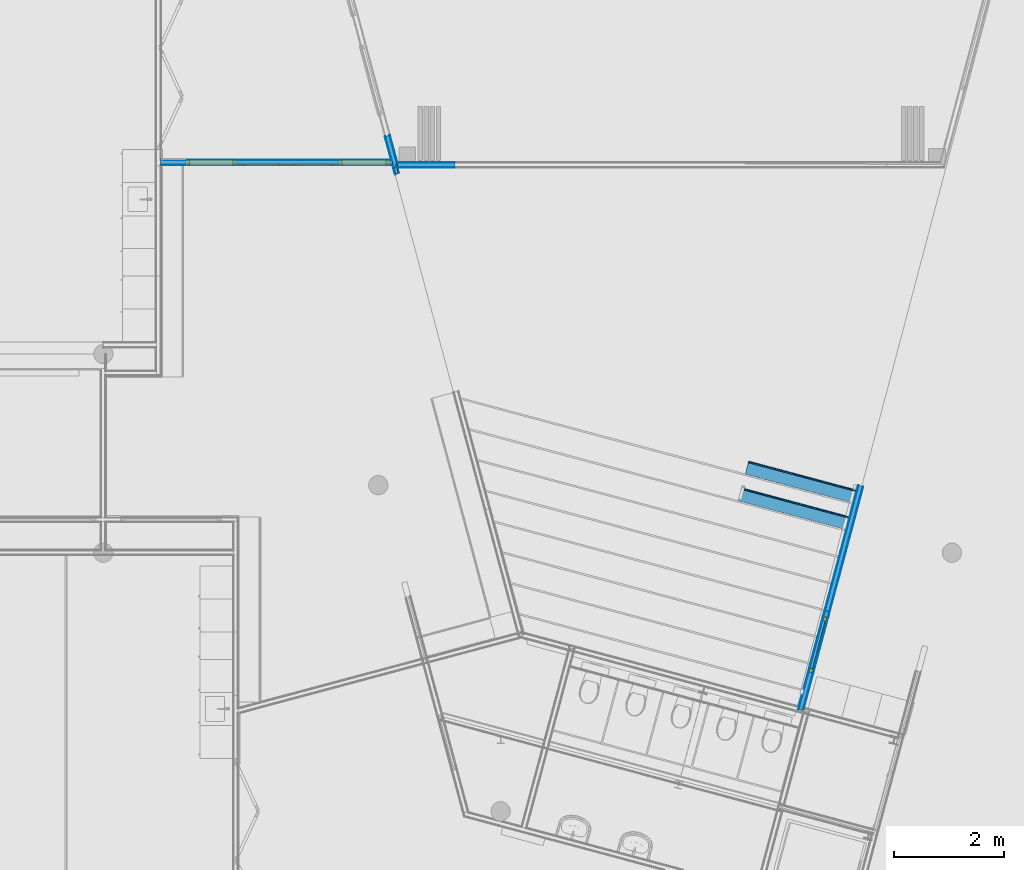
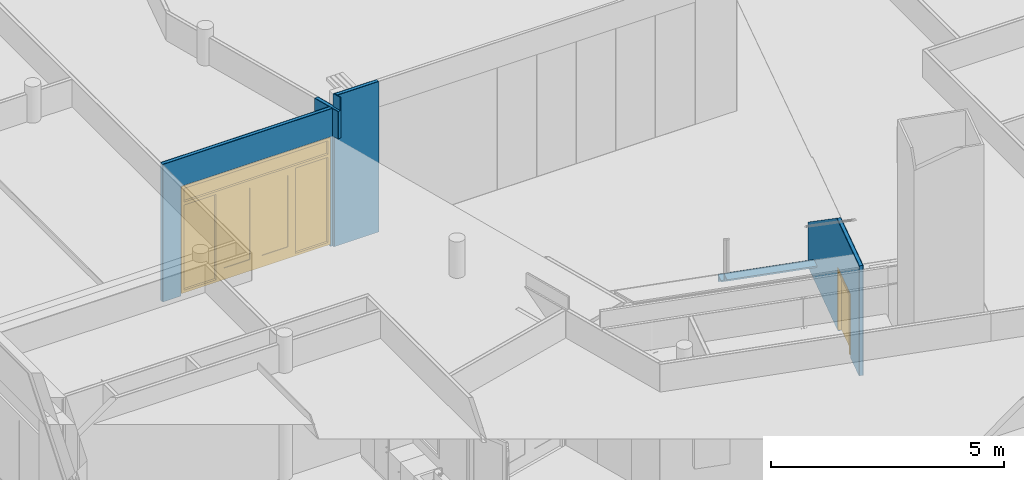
# One storey, part 60 of 167: 16 building element parts, 2 doors, 3 openings, 6 elements without a shape of their own.
"""IFC2X3 building model written with IfcOpenShell, lengths in millimetres."""

from ifc_helpers import new_model, entity, si_unit, converted_unit, derived_unit, money_unit, direction, frame, origin_with_axes, place, context, subcontext, project, spatial, open_shell, faceted_brep, surface_model, material, type_object, element, fill, aggregate, save


model = new_model("IFC2X3")

# Units and contexts
model_context = context("Model", 3, precision=0.01, world=origin_with_axes(), true_north=direction((0.0, 1.0)))
plan_context = context("Plan", 3, precision=0.01, world=origin_with_axes(), true_north=direction((0.0, 1.0)))
body_context = subcontext(model_context, "Body", "Model", "MODEL_VIEW")
ifc_project = project(units=[si_unit("LENGTHUNIT", "METRE", prefix="MILLI"), si_unit("AREAUNIT", "SQUARE_METRE"), si_unit("VOLUMEUNIT", "CUBIC_METRE"), converted_unit("PLANEANGLEUNIT", "DEGREE", entity("IfcPlaneAngleMeasure", 0.0174532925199), si_unit("PLANEANGLEUNIT", "RADIAN"), dimensions=[0, 0, 0, 0, 0, 0, 0]), si_unit("SOLIDANGLEUNIT", "STERADIAN"), money_unit("EUR"), converted_unit("TIMEUNIT", "Year", entity("IfcTimeMeasure", 31556926.0), si_unit("TIMEUNIT", "SECOND"), dimensions=[0, 0, 1, 0, 0, 0, 0]), si_unit("MASSUNIT", "GRAM", prefix="KILO"), si_unit("THERMODYNAMICTEMPERATUREUNIT", "DEGREE_CELSIUS"), si_unit("LUMINOUSINTENSITYUNIT", "LUMEN"), si_unit("ENERGYUNIT", "JOULE", prefix="MEGA"), derived_unit("THERMALCONDUCTANCEUNIT", [(si_unit("POWERUNIT", "WATT"), 1), (si_unit("LENGTHUNIT", "METRE"), -1), (si_unit("THERMODYNAMICTEMPERATUREUNIT", "KELVIN"), -1)]), derived_unit("SPECIFICHEATCAPACITYUNIT", [(si_unit("ENERGYUNIT", "JOULE"), 1), (si_unit("MASSUNIT", "GRAM", prefix="KILO"), -1), (si_unit("THERMODYNAMICTEMPERATUREUNIT", "KELVIN"), -1)]), derived_unit("MASSDENSITYUNIT", [(si_unit("MASSUNIT", "GRAM", prefix="KILO"), 1), (si_unit("VOLUMEUNIT", "CUBIC_METRE"), -1)])], contexts=[model_context, plan_context])

# Site, building, storey
site_placement = place(None, origin_with_axes())
site = spatial("IfcSite", under=ifc_project, at=site_placement, Name="Site", CompositionType="ELEMENT")
building_placement = place(site_placement, origin_with_axes())
building = spatial("IfcBuilding", under=site, at=building_placement, Name="Naam gebouw", CompositionType="ELEMENT")
storey_placement = place(building_placement, origin_with_axes())
storey = spatial("IfcBuildingStorey", under=building, at=storey_placement, Name="Begane grond", CompositionType="ELEMENT", Elevation=0.0)

# Door
door_style_1 = type_object("IfcDoorStyle", Name="D2 bl zl2 24", ConstructionType="NOTDEFINED", OperationType="USERDEFINED", ParameterTakesPrecedence=False, Sizeable=False)
wall_2_placement = place(storey_placement, frame((8200.0, 25071.5457572, -100.0), z_axis=(0.0, 0.0, 1.0), x_axis=(1.0, 0.0, 0.0)))
opening_3_placement = place(wall_2_placement, frame((2341.90114495, 0.0, 100.0), z_axis=(0.0, 0.0, 1.0), x_axis=(1.0, 0.0, 0.0)))
door_1_placement = place(opening_3_placement, frame((1850.0, 0.0, 0.0), z_axis=(0.0, 0.0, 1.0), x_axis=(-1.0, 0.0, 0.0)))
door_1 = element("IfcDoor", 1, at=door_1_placement, inside=storey, type_object=door_style_1, Name="32_Deur_Hi-23", ObjectType="DOOR", OverallHeight=2800.0, OverallWidth=3700.0, context=body_context, shape_type="SurfaceModel", body=[
    faceted_brep([(0.0, 64.0, 0.0), (67.0, 64.0, 0.0), (67.0, -50.0, 0.0), (0.0, -50.0, 0.0), (0.0, 64.0, 2733.0), (67.0, 64.0, 2733.0), (67.0, 64.0, 2375.0), (67.0, 64.0, 2300.0), (67.0, 64.0, 67.0), (67.0, -50.0, 67.0), (67.0, -50.0, 2300.0), (67.0, -50.0, 2375.0), (67.0, -50.0, 2733.0), (0.0, -50.0, 2733.0)], [[[0, 1, 2, 3]], [[0, 4, 5, 6, 7, 8, 1]], [[1, 8, 9, 2]], [[3, 2, 9, 10, 11, 12, 13]], [[4, 0, 3, 13]], [[5, 4, 13, 12]], [[6, 5, 12, 11]], [[7, 6, 11, 10]], [[8, 7, 10, 9]]]),
    faceted_brep([(934.5, 24.0, 0.0), (934.5, 24.0, 2300.0), (934.5, -50.0, 2300.0), (934.5, -50.0, 0.0), (909.5, 24.0, 2300.0), (909.5, 24.0, 0.0), (909.5, 64.0, 2300.0), (867.5, 64.0, 2300.0), (867.5, -50.0, 2300.0), (867.5, -50.0, 0.0), (867.5, -50.0, 67.0), (867.5, 64.0, 0.0), (909.5, 64.0, 0.0), (867.5, 64.0, 67.0)], [[[0, 1, 2, 3]], [[4, 1, 0, 5]], [[4, 6, 7, 8, 2, 1]], [[9, 3, 2, 8, 10]], [[5, 0, 3, 9, 11, 12]], [[6, 4, 5, 12]], [[6, 12, 11, 13, 7]], [[13, 10, 8, 7]], [[11, 9, 10, 13]]]),
    faceted_brep([(67.0, 64.0, 67.0), (67.0, 64.0, 0.0), (67.0, -50.0, 0.0), (67.0, -50.0, 67.0), (867.5, 64.0, 67.0), (867.5, 64.0, 0.0), (867.5, -50.0, 0.0), (867.5, -50.0, 67.0)], [[[0, 1, 2, 3]], [[0, 4, 5, 1]], [[1, 5, 6, 2]], [[3, 2, 6, 7]], [[4, 0, 3, 7]], [[5, 4, 7, 6]]]),
    faceted_brep([(3700.0, 64.0, 0.0), (3700.0, 64.0, 2733.0), (3700.0, -50.0, 2733.0), (3700.0, -50.0, 0.0), (3633.0, 64.0, 0.0), (3633.0, 64.0, 67.0), (3633.0, 64.0, 2300.0), (3633.0, 64.0, 2375.0), (3633.0, 64.0, 2733.0), (3633.0, -50.0, 2733.0), (3633.0, -50.0, 2375.0), (3633.0, -50.0, 2300.0), (3633.0, -50.0, 67.0), (3633.0, -50.0, 0.0)], [[[0, 1, 2, 3]], [[0, 4, 5, 6, 7, 8, 1]], [[1, 8, 9, 2]], [[3, 2, 9, 10, 11, 12, 13]], [[4, 0, 3, 13]], [[5, 4, 13, 12]], [[6, 5, 12, 11]], [[7, 6, 11, 10]], [[8, 7, 10, 9]]]),
    faceted_brep([(2790.5, 24.0, 2300.0), (2765.5, 24.0, 2300.0), (2765.5, -50.0, 2300.0), (2840.5, -50.0, 2300.0), (2840.5, 64.0, 2300.0), (2790.5, 64.0, 2300.0), (2790.5, 24.0, 0.0), (2765.5, 24.0, 0.0), (2765.5, -50.0, 0.0), (2840.5, -50.0, 0.0), (2840.5, -50.0, 67.0), (2840.5, 64.0, 67.0), (2790.5, 64.0, 0.0), (2840.5, 64.0, 0.0)], [[[0, 1, 2, 3, 4, 5]], [[1, 0, 6, 7]], [[1, 7, 8, 2]], [[8, 9, 10, 3, 2]], [[4, 3, 10, 11]], [[12, 5, 4, 11, 13]], [[0, 5, 12, 6]], [[6, 12, 13, 9, 8, 7]], [[11, 10, 9, 13]]]),
    faceted_brep([(2840.5, 64.0, 67.0), (2840.5, 64.0, 0.0), (2840.5, -50.0, 0.0), (2840.5, -50.0, 67.0), (3633.0, 64.0, 67.0), (3633.0, 64.0, 0.0), (3633.0, -50.0, 0.0), (3633.0, -50.0, 67.0)], [[[0, 1, 2, 3]], [[0, 4, 5, 1]], [[1, 5, 6, 2]], [[3, 2, 6, 7]], [[4, 0, 3, 7]], [[5, 4, 7, 6]]]),
    faceted_brep([(0.0, 64.0, 2800.0), (0.0, 64.0, 2733.0), (0.0, -50.0, 2733.0), (0.0, -50.0, 2800.0), (3700.0, 64.0, 2800.0), (3700.0, 64.0, 2733.0), (3633.0, 64.0, 2733.0), (67.0, 64.0, 2733.0), (67.0, -50.0, 2733.0), (3633.0, -50.0, 2733.0), (3700.0, -50.0, 2733.0), (3700.0, -50.0, 2800.0)], [[[0, 1, 2, 3]], [[0, 4, 5, 6, 7, 1]], [[1, 7, 8, 2]], [[3, 2, 8, 9, 10, 11]], [[4, 0, 3, 11]], [[5, 4, 11, 10]], [[6, 5, 10, 9]], [[7, 6, 9, 8]]]),
    faceted_brep([(909.5, 64.0, 2325.0), (909.5, 64.0, 2300.0), (867.5, 64.0, 2300.0), (67.0, 64.0, 2300.0), (67.0, 64.0, 2375.0), (3633.0, 64.0, 2375.0), (3633.0, 64.0, 2300.0), (2840.5, 64.0, 2300.0), (2790.5, 64.0, 2300.0), (2790.5, 64.0, 2325.0), (909.5, 24.0, 2325.0), (909.5, 24.0, 2300.0), (934.5, 24.0, 2300.0), (934.5, -50.0, 2300.0), (867.5, -50.0, 2300.0), (67.0, -50.0, 2300.0), (67.0, -50.0, 2375.0), (3633.0, -50.0, 2375.0), (3633.0, -50.0, 2300.0), (2840.5, -50.0, 2300.0), (2790.5, 24.0, 2300.0), (2765.5, -50.0, 2300.0), (2765.5, 24.0, 2300.0), (2790.5, 24.0, 2325.0)], [[[0, 1, 2, 3, 4, 5, 6, 7, 8, 9]], [[1, 0, 10, 11]], [[11, 12, 13, 14, 2, 1]], [[2, 14, 15, 3]], [[3, 15, 16, 4]], [[4, 16, 17, 5]], [[5, 17, 18, 6]], [[6, 18, 19, 7]], [[20, 8, 7, 19, 21, 22]], [[9, 8, 20, 23]], [[0, 9, 23, 10]], [[20, 22, 12, 11, 10, 23]], [[12, 22, 21, 13]], [[18, 17, 16, 15, 14, 13, 21, 19]]]),
    faceted_brep([(2790.5, 64.0, 300.0), (2790.5, 24.0, 300.0), (2640.5, 24.0, 300.0), (2640.5, 64.0, 300.0), (2790.5, 64.0, 2175.0), (2790.5, 24.0, 2175.0), (2640.5, 24.0, 2175.0), (2640.5, 64.0, 2175.0)], [[[0, 1, 2, 3]], [[4, 5, 1, 0]], [[1, 5, 6, 2]], [[3, 2, 6, 7]], [[0, 3, 7, 4]], [[7, 6, 5, 4]]]),
    faceted_brep([(1850.0, 64.0, 300.0), (1850.0, 24.0, 300.0), (1850.0, 24.0, 2175.0), (1850.0, 64.0, 2175.0), (2000.0, 64.0, 300.0), (2000.0, 24.0, 300.0), (2000.0, 24.0, 2175.0), (2000.0, 64.0, 2175.0)], [[[0, 1, 2, 3]], [[4, 5, 1, 0]], [[1, 5, 6, 2]], [[3, 2, 6, 7]], [[0, 3, 7, 4]], [[7, 6, 5, 4]]]),
    faceted_brep([(2790.5, 64.0, 0.0), (2790.5, 24.0, 0.0), (1850.0, 24.0, 0.0), (1850.0, 64.0, 0.0), (2790.5, 64.0, 300.0), (2790.5, 24.0, 300.0), (2640.5, 24.0, 300.0), (2000.0, 24.0, 300.0), (1850.0, 24.0, 300.0), (1850.0, 64.0, 300.0), (2000.0, 64.0, 300.0), (2640.5, 64.0, 300.0)], [[[0, 1, 2, 3]], [[4, 5, 1, 0]], [[1, 5, 6, 7, 8, 2]], [[3, 2, 8, 9]], [[0, 3, 9, 10, 11, 4]], [[11, 6, 5, 4]], [[10, 7, 6, 11]], [[9, 8, 7, 10]]]),
    faceted_brep([(2790.5, 64.0, 2325.0), (2790.5, 24.0, 2325.0), (2790.5, 24.0, 2175.0), (2790.5, 64.0, 2175.0), (1850.0, 64.0, 2325.0), (1850.0, 24.0, 2325.0), (1850.0, 24.0, 2175.0), (2000.0, 24.0, 2175.0), (2640.5, 24.0, 2175.0), (2640.5, 64.0, 2175.0), (2000.0, 64.0, 2175.0), (1850.0, 64.0, 2175.0)], [[[0, 1, 2, 3]], [[4, 5, 1, 0]], [[1, 5, 6, 7, 8, 2]], [[3, 2, 8, 9]], [[0, 3, 9, 10, 11, 4]], [[11, 6, 5, 4]], [[10, 7, 6, 11]], [[9, 8, 7, 10]]]),
    surface_model("IfcShellBasedSurfaceModel", [(2640.5, 50.0, 300.0), (2000.0, 50.0, 300.0), (2000.0, 50.0, 2175.0), (2640.5, 50.0, 2175.0)], [open_shell([[[0, 1, 2, 3]]])]),
    surface_model("IfcShellBasedSurfaceModel", [(2640.5, 38.0, 300.0), (2640.5, 38.0, 2175.0), (2000.0, 38.0, 2175.0), (2000.0, 38.0, 300.0)], [open_shell([[[0, 1, 2, 3]]])]),
    faceted_brep([(909.5, 64.0, 300.0), (1059.5, 64.0, 300.0), (1059.5, 24.0, 300.0), (909.5, 24.0, 300.0), (909.5, 64.0, 2175.0), (1059.5, 64.0, 2175.0), (1059.5, 24.0, 2175.0), (909.5, 24.0, 2175.0)], [[[0, 1, 2, 3]], [[0, 4, 5, 1]], [[1, 5, 6, 2]], [[3, 2, 6, 7]], [[4, 0, 3, 7]], [[5, 4, 7, 6]]]),
    faceted_brep([(1850.0, 64.0, 300.0), (1850.0, 64.0, 2175.0), (1850.0, 24.0, 2175.0), (1850.0, 24.0, 300.0), (1700.0, 64.0, 300.0), (1700.0, 64.0, 2175.0), (1700.0, 24.0, 2175.0), (1700.0, 24.0, 300.0)], [[[0, 1, 2, 3]], [[0, 4, 5, 1]], [[1, 5, 6, 2]], [[3, 2, 6, 7]], [[4, 0, 3, 7]], [[5, 4, 7, 6]]]),
    faceted_brep([(909.5, 64.0, 0.0), (1850.0, 64.0, 0.0), (1850.0, 24.0, 0.0), (909.5, 24.0, 0.0), (909.5, 64.0, 300.0), (1059.5, 64.0, 300.0), (1700.0, 64.0, 300.0), (1850.0, 64.0, 300.0), (1850.0, 24.0, 300.0), (1700.0, 24.0, 300.0), (1059.5, 24.0, 300.0), (909.5, 24.0, 300.0)], [[[0, 1, 2, 3]], [[0, 4, 5, 6, 7, 1]], [[1, 7, 8, 2]], [[3, 2, 8, 9, 10, 11]], [[4, 0, 3, 11]], [[5, 4, 11, 10]], [[6, 5, 10, 9]], [[7, 6, 9, 8]]]),
    faceted_brep([(909.5, 64.0, 2325.0), (909.5, 64.0, 2175.0), (909.5, 24.0, 2175.0), (909.5, 24.0, 2325.0), (1850.0, 64.0, 2325.0), (1850.0, 64.0, 2175.0), (1700.0, 64.0, 2175.0), (1059.5, 64.0, 2175.0), (1059.5, 24.0, 2175.0), (1700.0, 24.0, 2175.0), (1850.0, 24.0, 2175.0), (1850.0, 24.0, 2325.0)], [[[0, 1, 2, 3]], [[0, 4, 5, 6, 7, 1]], [[1, 7, 8, 2]], [[3, 2, 8, 9, 10, 11]], [[4, 0, 3, 11]], [[5, 4, 11, 10]], [[6, 5, 10, 9]], [[7, 6, 9, 8]]]),
    surface_model("IfcShellBasedSurfaceModel", [(1059.5, 50.0, 300.0), (1059.5, 50.0, 2175.0), (1700.0, 50.0, 2175.0), (1700.0, 50.0, 300.0)], [open_shell([[[0, 1, 2, 3]]])]),
    surface_model("IfcShellBasedSurfaceModel", [(1059.5, 38.0, 300.0), (1700.0, 38.0, 300.0), (1700.0, 38.0, 2175.0), (1059.5, 38.0, 2175.0)], [open_shell([[[0, 1, 2, 3]]])]),
    surface_model("IfcShellBasedSurfaceModel", [(67.0, 10.0, 2375.0), (67.0, 10.0, 2733.0), (3633.0, 10.0, 2733.0), (3633.0, 10.0, 2375.0)], [open_shell([[[0, 1, 2, 3]]])]),
    surface_model("IfcShellBasedSurfaceModel", [(67.0, -2.0, 2375.0), (3633.0, -2.0, 2375.0), (3633.0, -2.0, 2733.0), (67.0, -2.0, 2733.0)], [open_shell([[[0, 1, 2, 3]]])]),
    surface_model("IfcShellBasedSurfaceModel", [(67.0, 10.0, 67.0), (67.0, 10.0, 2300.0), (867.5, 10.0, 2300.0), (867.5, 10.0, 67.0)], [open_shell([[[0, 1, 2, 3]]])]),
    surface_model("IfcShellBasedSurfaceModel", [(67.0, -2.0, 67.0), (867.5, -2.0, 67.0), (867.5, -2.0, 2300.0), (67.0, -2.0, 2300.0)], [open_shell([[[0, 1, 2, 3]]])]),
    surface_model("IfcShellBasedSurfaceModel", [(2840.5, 10.0, 67.0), (2840.5, 10.0, 2300.0), (3633.0, 10.0, 2300.0), (3633.0, 10.0, 67.0)], [open_shell([[[0, 1, 2, 3]]])]),
    surface_model("IfcShellBasedSurfaceModel", [(2840.5, -2.0, 67.0), (3633.0, -2.0, 67.0), (3633.0, -2.0, 2300.0), (2840.5, -2.0, 2300.0)], [open_shell([[[0, 1, 2, 3]]])]),
])

door_style_2 = type_object("IfcDoorStyle", Name="D1 24", ConstructionType="NOTDEFINED", OperationType="SINGLE_SWING_RIGHT", ParameterTakesPrecedence=False, Sizeable=False)
wall_1_placement = place(storey_placement, frame((20924.8287667, 19208.6754465, -100.0), z_axis=(0.0, 0.0, 1.0), x_axis=(-0.258819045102, -0.965925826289, 0.0)))
opening_2_placement = place(wall_1_placement, frame((2978.33652657, 0.0, 100.0), z_axis=(0.0, 0.0, 1.0), x_axis=(1.0, 0.0, 0.0)))
door_2_placement = place(opening_2_placement, frame((-517.0, 0.0, 0.0), z_axis=(0.0, 0.0, 1.0), x_axis=(1.0, 0.0, 0.0)))
door_2 = element("IfcDoor", 2, at=door_2_placement, inside=storey, type_object=door_style_2, Name="32_Deur_Hi-10", ObjectType="DOOR", OverallHeight=1600.0, OverallWidth=1034.0, context=body_context, shape_type="Brep", body=[
    faceted_brep([(67.0, 10.0, 0.0), (67.0, 10.0, 1533.0), (67.0, -64.0, 1533.0), (67.0, -64.0, 0.0), (42.0, 10.0, 1533.0), (42.0, 10.0, 0.0), (42.0, 50.0, 1533.0), (0.0, 50.0, 1533.0), (0.0, -64.0, 1533.0), (0.0, -64.0, 0.0), (0.0, 50.0, 0.0), (42.0, 50.0, 0.0)], [[[0, 1, 2, 3]], [[4, 1, 0, 5]], [[4, 6, 7, 8, 2, 1]], [[3, 2, 8, 9]], [[5, 0, 3, 9, 10, 11]], [[6, 4, 5, 11]], [[6, 11, 10, 7]], [[10, 9, 8, 7]]]),
    faceted_brep([(992.0, 10.0, 1533.0), (967.0, 10.0, 1533.0), (967.0, -64.0, 1533.0), (1034.0, -64.0, 1533.0), (1034.0, 50.0, 1533.0), (992.0, 50.0, 1533.0), (992.0, 10.0, 0.0), (967.0, 10.0, 0.0), (967.0, -64.0, 0.0), (1034.0, -64.0, 0.0), (1034.0, 50.0, 0.0), (992.0, 50.0, 0.0)], [[[0, 1, 2, 3, 4, 5]], [[1, 0, 6, 7]], [[1, 7, 8, 2]], [[3, 2, 8, 9]], [[4, 3, 9, 10]], [[11, 5, 4, 10]], [[0, 5, 11, 6]], [[6, 11, 10, 9, 8, 7]]]),
    faceted_brep([(42.0, 50.0, 1558.0), (42.0, 50.0, 1533.0), (0.0, 50.0, 1533.0), (0.0, 50.0, 1600.0), (1034.0, 50.0, 1600.0), (1034.0, 50.0, 1533.0), (992.0, 50.0, 1533.0), (992.0, 50.0, 1558.0), (42.0, 10.0, 1558.0), (42.0, 10.0, 1533.0), (67.0, 10.0, 1533.0), (67.0, -64.0, 1533.0), (0.0, -64.0, 1533.0), (0.0, -64.0, 1600.0), (1034.0, -64.0, 1600.0), (1034.0, -64.0, 1533.0), (992.0, 10.0, 1533.0), (967.0, -64.0, 1533.0), (967.0, 10.0, 1533.0), (992.0, 10.0, 1558.0)], [[[0, 1, 2, 3, 4, 5, 6, 7]], [[1, 0, 8, 9]], [[9, 10, 11, 12, 2, 1]], [[2, 12, 13, 3]], [[3, 13, 14, 4]], [[4, 14, 15, 5]], [[16, 6, 5, 15, 17, 18]], [[7, 6, 16, 19]], [[0, 7, 19, 8]], [[16, 18, 10, 9, 8, 19]], [[10, 18, 17, 11]], [[17, 15, 14, 13, 12, 11]]]),
    faceted_brep([(992.0, 50.0, 0.0), (992.0, 10.0, 0.0), (42.0, 10.0, 0.0), (42.0, 50.0, 0.0), (992.0, 50.0, 1558.0), (992.0, 10.0, 1558.0), (42.0, 10.0, 1558.0), (42.0, 50.0, 1558.0)], [[[0, 1, 2, 3]], [[4, 5, 1, 0]], [[1, 5, 6, 2]], [[3, 2, 6, 7]], [[0, 3, 7, 4]], [[7, 6, 5, 4]]]),
])

# Wall, openings
wall_type = type_object("IfcWallType", Name="_TenW_22_Metalstud 100 enkel gipsvezelplaat 100", PredefinedType="NOTDEFINED")
wall_1 = element("IfcWall", 3, at=wall_1_placement, inside=storey, type_object=wall_type, Name="22_Wand_Wand-x")
opening_1_placement = place(wall_1_placement, frame((1899.34414673, 0.0, 1220.16882147), z_axis=(0.0, 0.0, 1.0), x_axis=(1.0, 0.0, 0.0)))
element("IfcOpeningElement", 4, at=opening_1_placement, cuts=wall_1, Name="31_Raam_Merk-x", context=body_context, shape_type="Brep", body=[
    faceted_brep([(1899.34414673, 100.0, 2733.01716064), (-1899.34414673, 100.0, 2733.01716064), (-1899.34414673, -100.0, 2733.01716064), (1899.34414673, -100.0, 2733.01716064), (-1899.34414673, 100.0, 0.0), (-1899.34414673, -100.0, 0.0)], [[[0, 1, 2, 3]], [[0, 4, 1]], [[1, 4, 5, 2]], [[3, 2, 5]], [[4, 0, 3, 5]]]),
])
opening_2 = element("IfcOpeningElement", 5, at=opening_2_placement, cuts=wall_1, Name="32_Deur_Hi-10", context=body_context, shape_type="Brep", body=[
    faceted_brep([(517.0, -100.0, 1600.0), (517.0, -100.0, 0.0), (517.0, 200.0, 0.0), (517.0, 200.0, 1600.0), (-517.0, -100.0, 1600.0), (-517.0, -100.0, 0.0), (-517.0, 200.0, 0.0), (-517.0, 200.0, 1600.0)], [[[0, 1, 2, 3]], [[0, 4, 5, 1]], [[1, 5, 6, 2]], [[3, 2, 6, 7]], [[4, 0, 3, 7]], [[5, 4, 7, 6]]]),
])

fill(opening_2, door_2)

# Building element part
ifc_material_1 = material(Name="Gipsplaat watervast")
building_element_part_1_placement = place(wall_1_placement, origin_with_axes())
building_element_part_1 = element("IfcBuildingElementPart", 6, at=building_element_part_1_placement, material=ifc_material_1, Name="Gipsplaat watervast", context=body_context, shape_type="Brep", body=[
    faceted_brep([(3495.33652657, 50.0, 100.0), (3495.33652657, 50.0, 1700.0), (2461.33652657, 50.0, 1700.0), (2461.33652657, 50.0, 100.0), (2461.33652657, 50.0, 30.0), (0.0, 50.0, 30.0), (0.0, 50.0, 1220.16882147), (2348.73824001, 50.0, 2910.0), (4200.0, 50.0, 2910.0), (4200.0, 50.0, 30.0), (3495.33652657, 50.0, 30.0), (3495.33652657, 37.5, 100.0), (3495.33652657, 37.5, 1700.0), (2461.33652657, 37.5, 1700.0), (2461.33652657, 37.5, 100.0), (2461.33652657, 37.5, 30.0), (0.0, 37.5, 30.0), (0.0, 37.5, 1220.16882147), (2348.73824001, 37.5, 2910.0), (4200.0, 37.5, 2910.0), (4200.0, 37.5, 30.0), (3495.33652657, 37.5, 30.0)], [[[0, 1, 2, 3, 4, 5, 6, 7, 8, 9, 10]], [[1, 0, 11, 12]], [[2, 1, 12, 13]], [[3, 2, 13, 14]], [[3, 14, 15, 4]], [[16, 5, 4, 15]], [[6, 5, 16, 17]], [[6, 17, 18, 7]], [[18, 19, 8, 7]], [[8, 19, 20, 9]], [[9, 20, 21, 10]], [[11, 0, 10, 21]], [[12, 11, 21, 20, 19, 18, 17, 16, 15, 14, 13]]]),
])

ifc_material_2 = material(Name="Isolatie - Steenwol zacht")
building_element_part_2_placement = place(wall_1_placement, origin_with_axes())
building_element_part_2 = element("IfcBuildingElementPart", 7, at=building_element_part_2_placement, material=ifc_material_2, Name="Isolatie - Steenwol zacht", context=body_context, shape_type="Brep", body=[
    faceted_brep([(3495.33652657, 37.5, 100.0), (3495.33652657, 37.5, 1700.0), (2461.33652657, 37.5, 1700.0), (2461.33652657, 37.5, 100.0), (2461.33652657, 37.5, 30.0), (0.0, 37.5, 30.0), (0.0, 37.5, 1220.16882147), (2348.73824001, 37.5, 2910.0), (4200.0, 37.5, 2910.0), (4200.0, 37.5, 30.0), (3495.33652657, 37.5, 30.0), (3495.33652657, -37.5, 100.0), (3495.33652657, -37.5, 1700.0), (2461.33652657, -37.5, 1700.0), (2461.33652657, -37.5, 100.0), (2461.33652657, -37.5, 30.0), (0.0, -37.5, 30.0), (0.0, -37.5, 1220.16882147), (2348.73824001, -37.5, 2910.0), (4200.0, -37.5, 2910.0), (4200.0, -37.5, 30.0), (3495.33652657, -37.5, 30.0)], [[[0, 1, 2, 3, 4, 5, 6, 7, 8, 9, 10]], [[1, 0, 11, 12]], [[2, 1, 12, 13]], [[3, 2, 13, 14]], [[3, 14, 15, 4]], [[16, 5, 4, 15]], [[6, 5, 16, 17]], [[6, 17, 18, 7]], [[18, 19, 8, 7]], [[8, 19, 20, 9]], [[9, 20, 21, 10]], [[11, 0, 10, 21]], [[12, 11, 21, 20, 19, 18, 17, 16, 15, 14, 13]]]),
])

building_element_part_3_placement = place(wall_1_placement, origin_with_axes())
building_element_part_3 = element("IfcBuildingElementPart", 8, at=building_element_part_3_placement, material=ifc_material_1, Name="Gipsplaat watervast", context=body_context, shape_type="Brep", body=[
    faceted_brep([(3495.33652657, -37.5, 100.0), (3495.33652657, -37.5, 1700.0), (2461.33652657, -37.5, 1700.0), (2461.33652657, -37.5, 100.0), (2461.33652657, -37.5, 30.0), (0.0, -37.5, 30.0), (0.0, -37.5, 1220.16882147), (2348.73824001, -37.5, 2910.0), (4200.0, -37.5, 2910.0), (4200.0, -37.5, 30.0), (3495.33652657, -37.5, 30.0), (3495.33652657, -50.0, 100.0), (3495.33652657, -50.0, 1700.0), (2461.33652657, -50.0, 1700.0), (2461.33652657, -50.0, 100.0), (2461.33652657, -50.0, 30.0), (0.0, -50.0, 30.0), (0.0, -50.0, 1220.16882147), (2348.73824001, -50.0, 2910.0), (4200.0, -50.0, 2910.0), (4200.0, -50.0, 30.0), (3495.33652657, -50.0, 30.0)], [[[0, 1, 2, 3, 4, 5, 6, 7, 8, 9, 10]], [[1, 0, 11, 12]], [[2, 1, 12, 13]], [[3, 2, 13, 14]], [[3, 14, 15, 4]], [[16, 5, 4, 15]], [[6, 5, 16, 17]], [[6, 17, 18, 7]], [[18, 19, 8, 7]], [[8, 19, 20, 9]], [[9, 20, 21, 10]], [[11, 0, 10, 21]], [[12, 11, 21, 20, 19, 18, 17, 16, 15, 14, 13]]]),
])

aggregate(wall_1, [building_element_part_1, building_element_part_2, building_element_part_3])

# Wall, opening
wall_2 = element("IfcWall", 9, at=wall_2_placement, inside=storey, type_object=wall_type, Name="22_Wand_Wand-x")
opening_3 = element("IfcOpeningElement", 10, at=opening_3_placement, cuts=wall_2, Name="32_Deur_Hi-23", context=body_context, shape_type="Brep", body=[
    faceted_brep([(-1850.0, -100.0, 0.0), (-1850.0, -100.0, 2800.0), (-1850.0, 200.0, 2800.0), (-1850.0, 200.0, 0.0), (1850.0, -100.0, 0.0), (1850.0, -100.0, 2800.0), (1850.0, 200.0, 2800.0), (1850.0, 200.0, 0.0)], [[[0, 1, 2, 3]], [[0, 4, 5, 1]], [[1, 5, 6, 2]], [[3, 2, 6, 7]], [[4, 0, 3, 7]], [[5, 4, 7, 6]]]),
])

fill(opening_3, door_1)

# Building element part
building_element_part_4_placement = place(wall_2_placement, origin_with_axes())
building_element_part_4 = element("IfcBuildingElementPart", 11, at=building_element_part_4_placement, material=ifc_material_1, Name="Gipsplaat watervast", context=body_context, shape_type="Brep", body=[
    faceted_brep([(491.901144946, 50.0, 2900.0), (491.901144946, 50.0, 100.0), (491.901144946, 50.0, 30.0), (50.0, 50.0, 30.0), (50.0, 50.0, 100.0), (70.0, 50.0, 100.0), (70.0, 50.0, 1300.0), (50.0, 50.0, 1300.0), (50.0, 50.0, 3630.0), (4213.49140076, 50.0, 3630.0), (4213.49140076, 50.0, 30.0), (4191.90114495, 50.0, 30.0), (4191.90114495, 50.0, 100.0), (4191.90114495, 50.0, 2900.0), (491.901144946, 37.5, 2900.0), (491.901144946, 37.5, 100.0), (491.901144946, 37.5, 30.0), (50.0, 37.5, 30.0), (50.0, 37.5, 100.0), (70.0, 37.5, 100.0), (70.0, 37.5, 1300.0), (50.0, 37.5, 1300.0), (50.0, 37.5, 3630.0), (4216.84076566, 37.5, 3630.0), (4216.84076566, 37.5, 30.0), (4191.90114495, 37.5, 30.0), (4191.90114495, 37.5, 100.0), (4191.90114495, 37.5, 2900.0)], [[[0, 1, 2, 3, 4, 5, 6, 7, 8, 9, 10, 11, 12, 13]], [[1, 0, 14, 15]], [[1, 15, 16, 2]], [[16, 17, 3, 2]], [[17, 18, 4, 3]], [[5, 4, 18, 19]], [[6, 5, 19, 20]], [[7, 6, 20, 21]], [[8, 7, 21, 22]], [[23, 9, 8, 22]], [[23, 24, 10, 9]], [[11, 10, 24, 25]], [[26, 12, 11, 25]], [[13, 12, 26, 27]], [[0, 13, 27, 14]], [[27, 26, 25, 24, 23, 22, 21, 20, 19, 18, 17, 16, 15, 14]]]),
])

building_element_part_5_placement = place(wall_2_placement, origin_with_axes())
building_element_part_5 = element("IfcBuildingElementPart", 12, at=building_element_part_5_placement, material=ifc_material_2, Name="Isolatie - Steenwol zacht", context=body_context, shape_type="Brep", body=[
    faceted_brep([(491.901144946, 37.5, 2900.0), (491.901144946, 37.5, 100.0), (491.901144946, 37.5, 30.0), (37.5, 37.5, 30.0), (37.5, 37.5, 3630.0), (4229.78171792, 37.5, 3630.0), (4229.78171792, 37.5, 30.0), (4191.90114495, 37.5, 30.0), (4191.90114495, 37.5, 100.0), (4191.90114495, 37.5, 2900.0), (491.901144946, -37.5, 2900.0), (491.901144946, -37.5, 100.0), (491.901144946, -37.5, 30.0), (37.5, -37.5, 30.0), (37.5, -37.5, 3630.0), (4249.87790735, -37.5, 3630.0), (4249.87790735, -37.5, 30.0), (4191.90114495, -37.5, 30.0), (4191.90114495, -37.5, 100.0), (4191.90114495, -37.5, 2900.0)], [[[0, 1, 2, 3, 4, 5, 6, 7, 8, 9]], [[1, 0, 10, 11]], [[1, 11, 12, 2]], [[12, 13, 3, 2]], [[4, 3, 13, 14]], [[15, 5, 4, 14]], [[15, 16, 6, 5]], [[7, 6, 16, 17]], [[18, 8, 7, 17]], [[9, 8, 18, 19]], [[0, 9, 19, 10]], [[19, 18, 17, 16, 15, 14, 13, 12, 11, 10]]]),
])

building_element_part_6_placement = place(wall_2_placement, origin_with_axes())
building_element_part_6 = element("IfcBuildingElementPart", 13, at=building_element_part_6_placement, material=ifc_material_1, Name="Gipsplaat watervast", context=body_context, shape_type="Brep", body=[
    faceted_brep([(491.901144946, -37.5, 2900.0), (491.901144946, -37.5, 100.0), (491.901144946, -37.5, 30.0), (50.0, -37.5, 30.0), (50.0, -37.5, 3630.0), (4236.9369551, -37.5, 3630.0), (4236.9369551, -37.5, 30.0), (4191.90114495, -37.5, 30.0), (4191.90114495, -37.5, 100.0), (4191.90114495, -37.5, 2900.0), (491.901144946, -50.0, 2900.0), (491.901144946, -50.0, 100.0), (491.901144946, -50.0, 30.0), (50.0, -50.0, 30.0), (50.0, -50.0, 3630.0), (4240.28632, -50.0, 3630.0), (4240.28632, -50.0, 30.0), (4191.90114495, -50.0, 30.0), (4191.90114495, -50.0, 100.0), (4191.90114495, -50.0, 2900.0)], [[[0, 1, 2, 3, 4, 5, 6, 7, 8, 9]], [[1, 0, 10, 11]], [[1, 11, 12, 2]], [[12, 13, 3, 2]], [[4, 3, 13, 14]], [[15, 5, 4, 14]], [[15, 16, 6, 5]], [[7, 6, 16, 17]], [[18, 8, 7, 17]], [[9, 8, 18, 19]], [[0, 9, 19, 10]], [[19, 18, 17, 16, 15, 14, 13, 12, 11, 10]]]),
])

aggregate(wall_2, [building_element_part_4, building_element_part_5, building_element_part_6])

# Beam, building element parts
beam_type = type_object("IfcBeamType", Name="_TenW_24_tribunetrap tredes 250 x 180", PredefinedType="BEAM")
beam_1_placement = place(storey_placement, frame((18831.553058, 19421.7580897, 2.0), z_axis=(0.0, 0.0, 1.0), x_axis=(-0.258819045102, -0.965925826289, 0.0)))
beam_1 = element("IfcBeam", 14, at=beam_1_placement, inside=storey, type_object=beam_type, Name="28_Balk_Regenwaterafvoer-x", ObjectType="BEAM")
ifc_material_3 = material(Name="Hout AFW")
building_element_part_7_placement = place(beam_1_placement, origin_with_axes())
building_element_part_7 = element("IfcBuildingElementPart", 15, at=building_element_part_7_placement, material=ifc_material_3, Name="Hout AFW", context=body_context, shape_type="Brep", body=[
    faceted_brep([(-240.0, 2000.0, 139.999996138), (-240.02878162, 2000.0, -1.36807885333e-07), (-240.02878162, 0.0, -1.36807885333e-07), (-240.0, 0.0, 139.999996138), (-215.0, 2000.0, 139.999996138), (-215.028777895, 2000.0, -3.86210173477e-06), (-215.028777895, 0.0, -3.86210173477e-06), (-215.0, 0.0, 139.999996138)], [[[0, 1, 2, 3]], [[0, 4, 5, 1]], [[1, 5, 6, 2]], [[3, 2, 6, 7]], [[4, 0, 3, 7]], [[5, 4, 7, 6]]]),
])
building_element_part_8_placement = place(beam_1_placement, origin_with_axes())
building_element_part_8 = element("IfcBuildingElementPart", 16, at=building_element_part_8_placement, material=ifc_material_3, Name="Hout AFW", context=body_context, shape_type="Brep", body=[
    faceted_brep([(-250.0, 2000.0, 179.999996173), (-250.0, 2000.0, 139.999996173), (-250.0, 0.0, 139.999996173), (-250.0, 0.0, 179.999996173), (0.0, 2000.0, 179.999996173), (0.0, 2000.0, 139.999996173), (-215.0, 2000.0, 139.999996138), (-240.0, 2000.0, 139.999996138), (-240.0, 0.0, 139.999996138), (-215.0, 0.0, 139.999996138), (0.0, 0.0, 139.999996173), (0.0, 0.0, 179.999996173)], [[[0, 1, 2, 3]], [[0, 4, 5, 6, 7, 1]], [[1, 7, 8, 2]], [[3, 2, 8, 9, 10, 11]], [[4, 0, 3, 11]], [[5, 4, 11, 10]], [[6, 5, 10, 9]], [[7, 6, 9, 8]]]),
])
aggregate(beam_1, [building_element_part_7, building_element_part_8])

beam_2_placement = place(storey_placement, frame((18702.1435355, 18938.7951766, 360.000003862), z_axis=(0.0, 0.0, 1.0), x_axis=(-0.258819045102, -0.965925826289, 0.0)))
beam_2 = element("IfcBeam", 17, at=beam_2_placement, inside=storey, type_object=beam_type, Name="28_Balk_Regenwaterafvoer-x", ObjectType="BEAM")
building_element_part_9_placement = place(beam_2_placement, origin_with_axes())
building_element_part_9 = element("IfcBuildingElementPart", 18, at=building_element_part_9_placement, material=ifc_material_3, Name="Hout AFW", context=body_context, shape_type="Brep", body=[
    faceted_brep([(-240.0, 2000.0, 139.999996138), (-240.02878162, 2000.0, -1.36807898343e-07), (-240.02878162, 0.0, -1.36807898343e-07), (-240.0, 0.0, 139.999996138), (-215.0, 2000.0, 139.999996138), (-215.028777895, 2000.0, -3.86210174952e-06), (-215.028777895, 0.0, -3.86210174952e-06), (-215.0, 0.0, 139.999996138)], [[[0, 1, 2, 3]], [[0, 4, 5, 1]], [[1, 5, 6, 2]], [[3, 2, 6, 7]], [[4, 0, 3, 7]], [[5, 4, 7, 6]]]),
])
building_element_part_10_placement = place(beam_2_placement, origin_with_axes())
building_element_part_10 = element("IfcBuildingElementPart", 19, at=building_element_part_10_placement, material=ifc_material_3, Name="Hout AFW", context=body_context, shape_type="Brep", body=[
    faceted_brep([(-250.0, 2000.0, 179.999996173), (-250.0, 2000.0, 139.999996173), (-250.0, 0.0, 139.999996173), (-250.0, 0.0, 179.999996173), (0.0, 2000.0, 179.999996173), (0.0, 2000.0, 139.999996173), (-215.0, 2000.0, 139.999996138), (-240.0, 2000.0, 139.999996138), (-240.0, 0.0, 139.999996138), (-215.0, 0.0, 139.999996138), (0.0, 0.0, 139.999996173), (0.0, 0.0, 179.999996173)], [[[0, 1, 2, 3]], [[0, 4, 5, 6, 7, 1]], [[1, 7, 8, 2]], [[3, 2, 8, 9, 10, 11]], [[4, 0, 3, 11]], [[5, 4, 11, 10]], [[6, 5, 10, 9]], [[7, 6, 9, 8]]]),
])
aggregate(beam_2, [building_element_part_9, building_element_part_10])

# Wall, building element parts
wall_3_placement = place(storey_placement, frame((12349.3638502, 25554.0581993, -70.0), z_axis=(0.0, 0.0, 1.0), x_axis=(0.258819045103, -0.965925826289, 0.0)))
wall_3 = element("IfcWall", 20, at=wall_3_placement, inside=storey, type_object=wall_type, Name="22_Wand_Wand-x")
building_element_part_11_placement = place(wall_3_placement, origin_with_axes())
building_element_part_11 = element("IfcBuildingElementPart", 21, at=building_element_part_11_placement, material=ifc_material_1, Name="Gipsplaat watervast", context=body_context, shape_type="Brep", body=[
    faceted_brep([(0.0, 50.0, 3600.0), (510.502552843, 50.0, 3600.0), (510.502552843, 50.0, 3940.0), (522.295954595, 50.0, 3940.0), (522.295954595, 50.0, 2880.0), (522.295954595, 50.0, 0.0), (0.0, 50.0, 0.0), (0.0, 37.5, 3600.0), (507.09787234, 37.5, 3600.0), (507.09787234, 37.5, 3940.0), (518.946589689, 37.5, 3940.0), (518.946589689, 37.5, 2880.0), (518.946589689, 37.5, 0.0), (0.0, 37.5, 0.0)], [[[0, 1, 2, 3, 4, 5, 6]], [[1, 0, 7, 8]], [[2, 1, 8, 9]], [[2, 9, 10, 3]], [[10, 11, 12, 5, 4, 3]], [[6, 5, 12, 13]], [[7, 0, 6, 13]], [[8, 7, 13, 12, 11, 10, 9]]]),
])
building_element_part_12_placement = place(wall_3_placement, origin_with_axes())
building_element_part_12 = element("IfcBuildingElementPart", 22, at=building_element_part_12_placement, material=ifc_material_2, Name="Isolatie - Steenwol zacht", context=body_context, shape_type="Brep", body=[
    faceted_brep([(500.676348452, 13.9239115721, 3940.0), (500.676348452, 13.9239115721, 3600.0), (712.882620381, 14.0377590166, 3600.0), (712.882620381, 14.0377590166, 3940.0), (507.09787234, 37.5, 3600.0), (507.09787234, 37.5, 3940.0), (712.882620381, -37.5, 3600.0), (0.0, 37.5, 3600.0), (0.0, -37.5, 3600.0), (712.882620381, -37.5, 2880.0), (712.882620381, 37.5, 2880.0), (712.882620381, 37.5, 3940.0), (609.533255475, 37.5, 2880.0), (596.59230322, 37.5, 2880.0), (596.59230322, 37.5, 0.0), (0.0, 37.5, 0.0), (0.0, -37.5, 0.0), (576.496113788, -37.5, 0.0), (576.496113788, -37.5, 2880.0), (589.437066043, -37.5, 2880.0)], [[[0, 1, 2, 3]], [[4, 1, 0, 5]], [[6, 2, 1, 4, 7, 8]], [[2, 6, 9, 10, 11, 3]], [[5, 0, 3, 11]], [[4, 5, 11, 10, 12, 13, 14, 15, 7]], [[8, 7, 15, 16]], [[6, 8, 16, 17, 18, 19, 9]], [[9, 19, 12, 10]], [[18, 13, 12, 19]], [[17, 14, 13, 18]], [[15, 14, 17, 16]]]),
])
building_element_part_13_placement = place(wall_3_placement, origin_with_axes())
building_element_part_13 = element("IfcBuildingElementPart", 23, at=building_element_part_13_placement, material=ifc_material_1, Name="Gipsplaat watervast", context=body_context, shape_type="Brep", body=[
    faceted_brep([(0.0, -37.5, 3600.0), (450.66268656, -37.5, 3600.0), (450.66268656, -37.5, 0.0), (0.0, -37.5, 0.0), (447.313321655, -50.0, 3600.0), (0.0, -50.0, 3600.0), (447.313321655, -50.0, 0.0), (0.0, -50.0, 0.0)], [[[0, 1, 2, 3]], [[4, 1, 0, 5]], [[1, 4, 6, 2]], [[3, 2, 6, 7]], [[5, 0, 3, 7]], [[4, 5, 7, 6]]]),
    faceted_brep([(528.308400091, -37.5, 3600.0), (712.882620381, -37.5, 3600.0), (712.882620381, -37.5, 2880.0), (589.437066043, -37.5, 2880.0), (589.437066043, -37.5, 0.0), (528.308400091, -37.5, 0.0), (712.882620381, -50.0, 3600.0), (524.959035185, -50.0, 3600.0), (712.882620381, -50.0, 2880.0), (586.087701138, -50.0, 2880.0), (586.087701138, -50.0, 0.0), (524.959035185, -50.0, 0.0)], [[[0, 1, 2, 3, 4, 5]], [[6, 1, 0, 7]], [[1, 6, 8, 2]], [[8, 9, 3, 2]], [[9, 10, 4, 3]], [[10, 11, 5, 4]], [[7, 0, 5, 11]], [[6, 7, 11, 10, 9, 8]]]),
])
aggregate(wall_3, [building_element_part_11, building_element_part_12, building_element_part_13])

wall_4_placement = place(storey_placement, frame((12491.1245674, 25025.0, -70.0), z_axis=(0.0, 0.0, 1.0), x_axis=(1.0, 0.0, 0.0)))
wall_4 = element("IfcWall", 24, at=wall_4_placement, inside=storey, type_object=wall_type, Name="22_Wand_Wand-x")
building_element_part_14_placement = place(wall_4_placement, origin_with_axes())
building_element_part_14 = element("IfcBuildingElementPart", 25, at=building_element_part_14_placement, material=ifc_material_1, Name="Gipsplaat watervast", context=body_context, shape_type="Brep", body=[
    faceted_brep([(38.3663493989, 50.0, 3600.0), (1073.33842155, 50.0, 3600.0), (1073.33842155, 50.0, 0.0), (38.3663493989, 50.0, 0.0), (1073.33842155, 44.6242930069, 3600.0), (38.6633573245, 48.8915513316, 3600.0), (1073.33842155, 44.6242930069, 3940.0), (1073.33842155, 37.5, 3940.0), (1073.33842155, 37.5, 0.0), (41.7157143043, 37.5, 0.0), (41.7157143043, 37.5, 3940.0), (38.6633573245, 48.8915513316, 3940.0)], [[[0, 1, 2, 3]], [[4, 1, 0, 5]], [[4, 6, 7, 8, 2, 1]], [[8, 9, 3, 2]], [[5, 0, 3, 9, 10, 11]], [[4, 5, 11, 6]], [[6, 11, 10, 7]], [[10, 9, 8, 7]]]),
])
building_element_part_15_placement = place(wall_4_placement, origin_with_axes())
building_element_part_15 = element("IfcBuildingElementPart", 26, at=building_element_part_15_placement, material=ifc_material_2, Name="Isolatie - Steenwol zacht", context=body_context, shape_type="Brep", body=[
    faceted_brep([(48.8709514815, -37.5, 3940.0), (28.7747620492, 37.5, 3940.0), (28.7747620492, 37.5, 0.0), (48.8709514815, -37.5, 0.0), (1073.33842155, 37.5, 3940.0), (1073.33842155, -37.5, 3940.0), (1073.33842155, 37.5, 0.0), (1073.33842155, -37.5, 0.0)], [[[0, 1, 2, 3]], [[4, 1, 0, 5]], [[6, 2, 1, 4]], [[7, 3, 2, 6]], [[0, 3, 7, 5]], [[7, 6, 4, 5]]]),
])
building_element_part_16_placement = place(wall_4_placement, origin_with_axes())
building_element_part_16 = element("IfcBuildingElementPart", 27, at=building_element_part_16_placement, material=ifc_material_1, Name="Gipsplaat watervast", context=body_context, shape_type="Brep", body=[
    faceted_brep([(61.8119037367, -37.5, 2880.0), (-28.7747620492, -37.5, 2880.0), (-25.4253971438, -50.0, 2880.0), (65.1612686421, -50.0, 2880.0), (1073.33842155, -37.5, 0.0), (-28.7747620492, -37.5, 0.0), (61.8119037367, -37.5, 3940.0), (1073.33842155, -37.5, 3940.0), (-25.4253971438, -50.0, 0.0), (1073.33842155, -50.0, 0.0), (1073.33842155, -50.0, 3940.0), (65.1612686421, -50.0, 3940.0)], [[[0, 1, 2, 3]], [[4, 5, 1, 0, 6, 7]], [[5, 8, 2, 1]], [[3, 2, 8, 9, 10, 11]], [[11, 6, 0, 3]], [[9, 8, 5, 4]], [[7, 6, 11, 10]], [[9, 4, 7, 10]]]),
])
aggregate(wall_4, [building_element_part_14, building_element_part_15, building_element_part_16])

save(model, "model.ifc")
